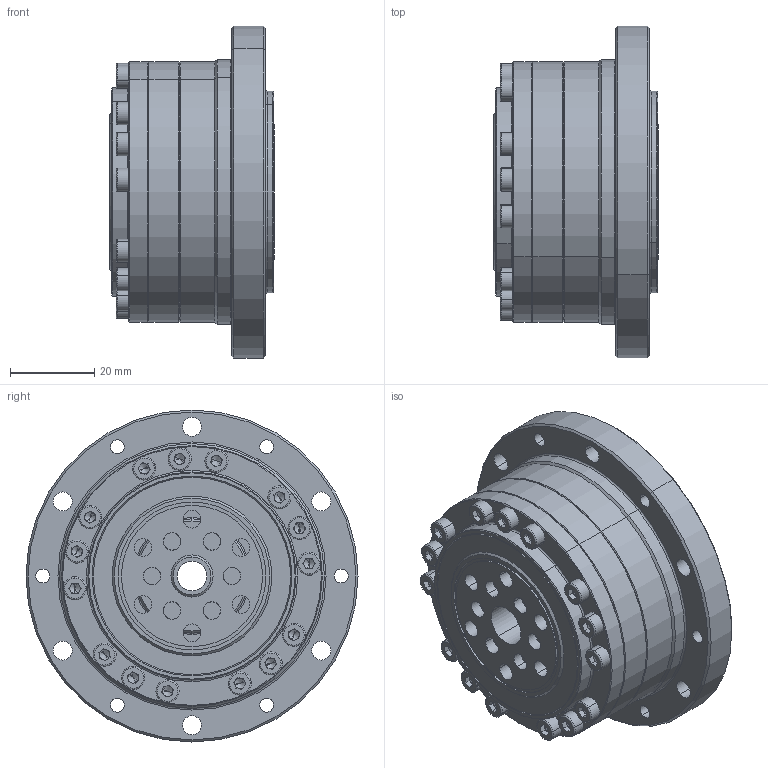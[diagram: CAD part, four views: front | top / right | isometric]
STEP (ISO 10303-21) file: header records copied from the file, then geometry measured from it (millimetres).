
FILE_DESCRIPTION (( 'STEP AP203' ), '1' );
FILE_NAME ('LCS-17-XXX-C-I-S0.STEP', '2016-09-06T01:16:49', ( 'Windows 蚚誧' ), ( 'Users' ), 'SwSTEP 2.0', 'SolidWorks 2013', '' );
FILE_SCHEMA (( 'CONFIG_CONTROL_DESIGN' ));
Length unit declared in the file: millimetre
Products named in the file (15): socket head cap screw_din_DIN 912 M3 x 10 --- 10C; RZC内外圈+钢球; socket head cap screw_din_DIN 912 M3 x 16 --- 16C; 悵厥殤; socket head cap screw_din_DIN 912 M5 x 16 --- 16C; RZC-17; countersunk flat head cross recess screw_din_ISO 7046-1 - M2 x 4 - Z --- 4N; LCS-17-XXX-P01-S0; LCS-17-XXX-C-I-S0; LCS-17-XXX-P02-S0; LCS-17-XXX-P04-S0; LCS-17-XXX-P05-S0; LCS-17-XXX-P03-S0; YF-17-I-S0; DB-17-I-S0
Assembly tree (35 placements, depth 3):
  LCS-17-XXX-C-I-S0
    LCS-17-XXX-P03-S0
    DB-17-I-S0
    RZC-17
      RZC内外圈+钢球
      悵厥殤
    LCS-17-XXX-P01-S0
    LCS-17-XXX-P02-S0
    LCS-17-XXX-P04-S0
    LCS-17-XXX-P05-S0
    YF-17-I-S0
    socket head cap screw_din_DIN 912 M3 x 10 --- 10C  x5
    socket head cap screw_din_DIN 912 M3 x 16 --- 16C  x10
    socket head cap screw_din_DIN 912 M5 x 16 --- 16C  x6
    countersunk flat head cross recess screw_din_ISO 7046-1 - M2 x 4 - Z --- 4N  x4
Bounding box: 39.1 x 79 x 79 mm (x, y, z)
Volume: 90091.9 mm3; surface area: 67708.6 mm2
Topology: 35 solids, 35 shells, 1368 faces, 3503 edges, 2135 vertices
Faces by surface type: plane 508, cylinder 442, cone 240, torus 132, sphere 46
Entity records: 27752 total; most frequent: CARTESIAN_POINT 5607, DIRECTION 4582, ORIENTED_EDGE 4022, EDGE_CURVE 2011, AXIS2_PLACEMENT_3D 1970, VERTEX_POINT 1287, CIRCLE 1172, EDGE_LOOP 958
